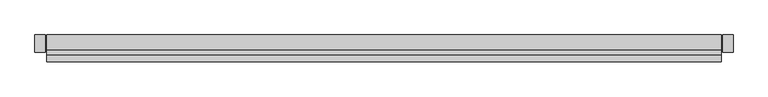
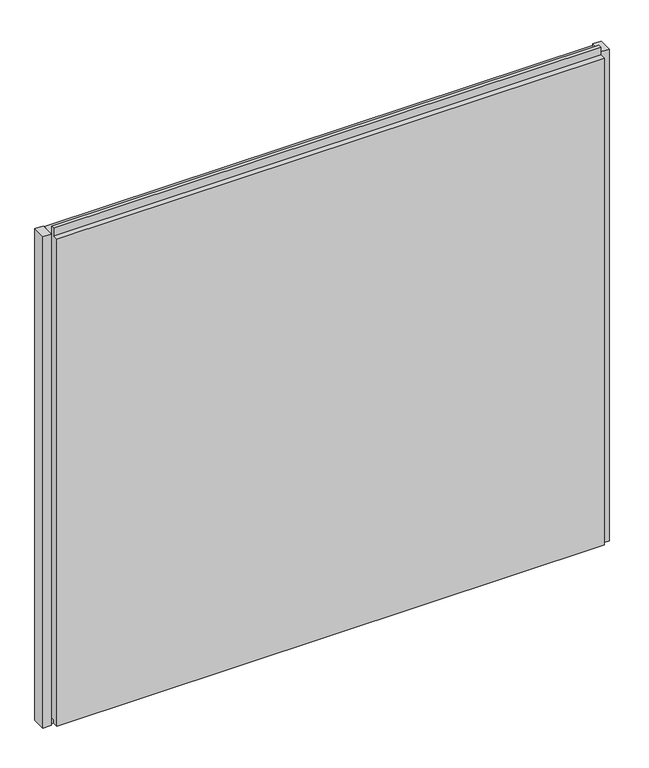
"""IFC4 building model written with IfcOpenShell, lengths in millimetres: plate geometry, Trimo_Qbiss Screen_Normal Panel-HORIZONTAL : HR - FB-F."""

from ifc_helpers import new_model, si_unit, frame, origin, place, context, project, spatial, polyline, outline, extrude, source, transform, mapped, element, save


def plate_6c90bc91(model_context):
    return source(origin(), model_context, "Body", "SweptSolid", [
        extrude(outline(polyline([(-634.25, 67.8978162), (-653.25, 67.8978162), (-653.25, 100.0), (-634.25, 100.0), (-634.25, 67.8978162)])), frame((0.0, 0.0, -1.0), z_axis=(0.0, 0.0, 1.0), x_axis=(1.0, 0.0, 0.0)), (0.0, 0.0, 1.0), 1200.0),
        extrude(outline(polyline([(653.25, 67.8978162), (634.25, 67.8978162), (634.25, 100.0), (653.25, 100.0), (653.25, 67.8978162)])), frame((0.0, 0.0, -1.0), z_axis=(0.0, 0.0, 1.0), x_axis=(1.0, 0.0, 0.0)), (0.0, 0.0, 1.0), 1200.0),
        extrude(outline(polyline([(71.0, 1196.0), (100.0, 1196.0), (100.0, 0.0), (72.0, 0.0), (72.0, 15.5), (62.0, 15.5), (62.0, 7.0), (50.0, 7.0), (50.0, 1196.0), (63.0, 1196.0), (63.0, 1214.5), (71.0, 1214.5), (71.0, 1196.0)])), frame((-631.25, 0.0, 0.0), z_axis=(1.0, 0.0, 0.0), x_axis=(0.0, 1.0, 0.0)), (0.0, 0.0, 1.0), 1262.5),
    ])


if __name__ == "__main__":
    model = new_model("IFC4")
    model_context = context("Model", 3, world=origin())
    ifc_project = project(units=[si_unit("LENGTHUNIT", "METRE", prefix="MILLI")], contexts=[model_context])
    site = spatial("IfcSite", under=ifc_project)
    building = spatial("IfcBuilding", under=site)
    placement = place(None, origin())
    plate_shape = plate_6c90bc91(model_context)
    element("IfcPlate", 1, ObjectType="Trimo_Qbiss Screen_Normal Panel-HORIZONTAL : HR - FB-F", at=placement, inside=building, context=model_context, shape_type="MappedRepresentation", body=[
        mapped(plate_shape, transform((0.0, 0.0, 0.0), x_axis=(1.0, 0.0, 0.0), y_axis=(0.0, 1.0, 0.0), z_axis=(0.0, 0.0, 1.0))),
    ])
    save(model, "model.ifc")
